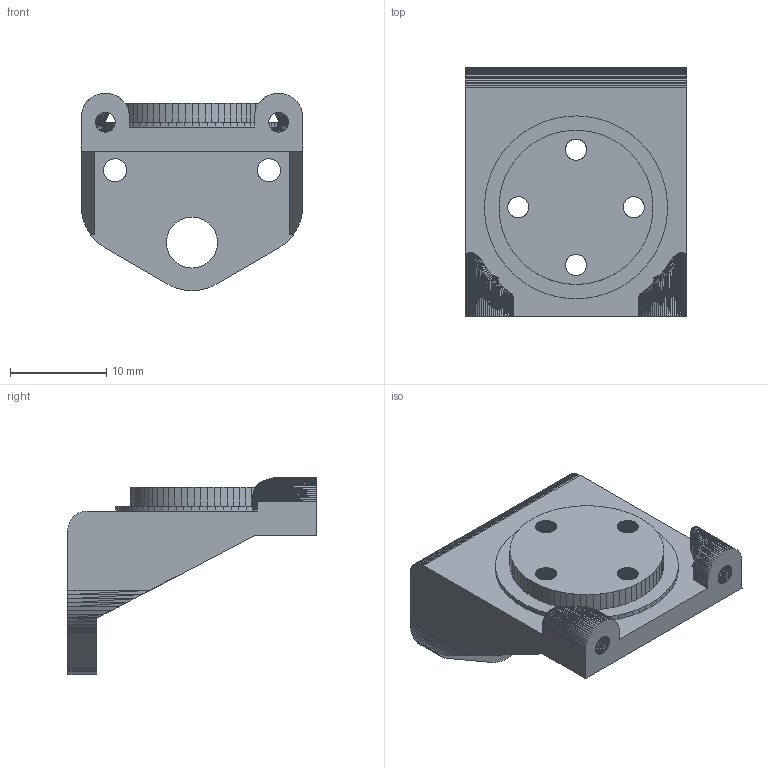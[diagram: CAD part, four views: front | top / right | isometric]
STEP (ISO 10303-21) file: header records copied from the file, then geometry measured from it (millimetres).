
FILE_DESCRIPTION (( 'STEP AP203' ), '1' );
FILE_NAME ('yaw2roll_Æ«º½×ªºá¹ö-FT.STEP', '2026-09-11T23:30:10', ( '' ), ( '' ), 'SwSTEP 2.0', 'SolidWorks 2021', '' );
FILE_SCHEMA (( 'CONFIG_CONTROL_DESIGN' ));
Products named in the file (1): yaw2roll_ぇ瑤蛌筵幗-FT
Bounding box: 23 x 25.8 x 20.5 mm (x, y, z)
Volume: 2782.9 mm3; surface area: 2786.7 mm2
Topology: 1 solids, 1 shells, 7918 faces, 13811 edges, 5902 vertices
Faces by surface type: plane 7916, cylinder 2
Entity records: 171969 total; most frequent: DIRECTION 29648, CARTESIAN_POINT 27647, ORIENTED_EDGE 27622, EDGE_CURVE 13811, LINE 13802, VECTOR 13802, EDGE_LOOP 7943, AXIS2_PLACEMENT_3D 7923
